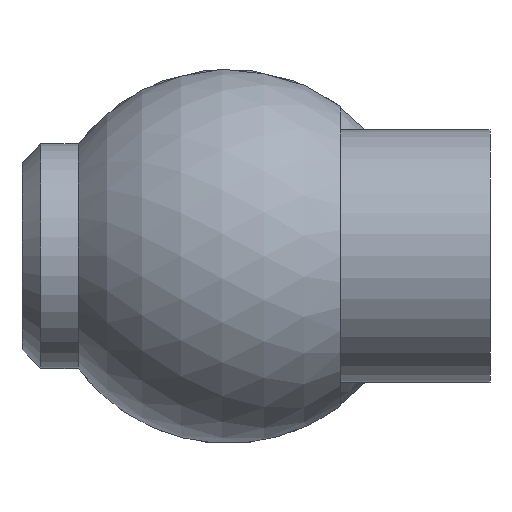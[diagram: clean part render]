
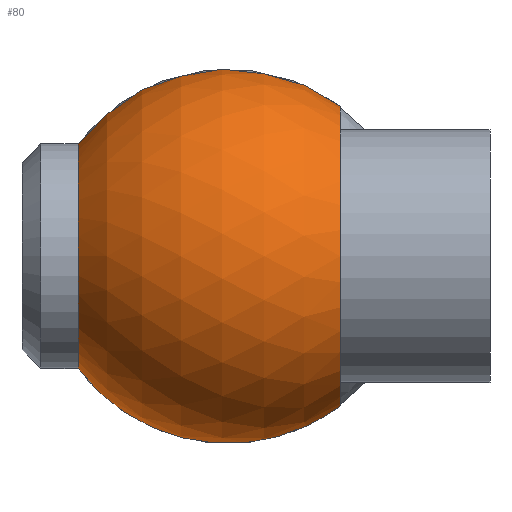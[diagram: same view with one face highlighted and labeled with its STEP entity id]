
A CAD part, left-side view. The second image highlights one B-rep face of the part: STEP entity #80.
In plain terms, the highlighted spherical face has radius 10 mm.
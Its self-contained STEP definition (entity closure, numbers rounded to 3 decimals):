
#80 = ADVANCED_FACE( '', ( #106, #107, #108 ), #109, .T. );
#106 = FACE_OUTER_BOUND( '', #151, .T. );
#107 = FACE_BOUND( '', #152, .T. );
#108 = FACE_OUTER_BOUND( '', #153, .T. );
#109 = SPHERICAL_SURFACE( '', #154, 10. );
#151 = EDGE_LOOP( '', ( #206 ) );
#152 = EDGE_LOOP( '', ( #207 ) );
#153 = EDGE_LOOP( '', ( #208 ) );
#154 = AXIS2_PLACEMENT_3D( '', #209, #210, #211 );
#206 = ORIENTED_EDGE( '', *, *, #264, .T. );
#207 = ORIENTED_EDGE( '', *, *, #259, .T. );
#208 = ORIENTED_EDGE( '', *, *, #265, .F. );
#209 = CARTESIAN_POINT( '', ( 0., 14., 0. ) );
#210 = DIRECTION( '', ( 0., -1., 0. ) );
#211 = DIRECTION( '', ( 1., 0., 0. ) );
#259 = EDGE_CURVE( '', #276, #276, #277, .T. );
#264 = EDGE_CURVE( '', #286, #286, #287, .T. );
#265 = EDGE_CURVE( '', #288, #288, #289, .T. );
#276 = VERTEX_POINT( '', #304 );
#277 = CIRCLE( '', #305, 4.25 );
#286 = VERTEX_POINT( '', #314 );
#287 = CIRCLE( '', #315, 6. );
#288 = VERTEX_POINT( '', #316 );
#289 = CIRCLE( '', #317, 8. );
#304 = CARTESIAN_POINT( '', ( 9.052, 14., 4.25 ) );
#305 = AXIS2_PLACEMENT_3D( '', #334, #335, #336 );
#314 = CARTESIAN_POINT( '', ( 0., 22., -6. ) );
#315 = AXIS2_PLACEMENT_3D( '', #349, #350, #351 );
#316 = CARTESIAN_POINT( '', ( 0., 8., -8. ) );
#317 = AXIS2_PLACEMENT_3D( '', #352, #353, #354 );
#334 = CARTESIAN_POINT( '', ( 9.052, 14., 0. ) );
#335 = DIRECTION( '', ( -1., 0., 0. ) );
#336 = DIRECTION( '', ( 0., 0., 1. ) );
#349 = CARTESIAN_POINT( '', ( 0., 22., 0. ) );
#350 = DIRECTION( '', ( 0., -1., 0. ) );
#351 = DIRECTION( '', ( 0., 0., -1. ) );
#352 = CARTESIAN_POINT( '', ( 0., 8., 0. ) );
#353 = DIRECTION( '', ( 0., -1., 0. ) );
#354 = DIRECTION( '', ( 0., 0., -1. ) );
